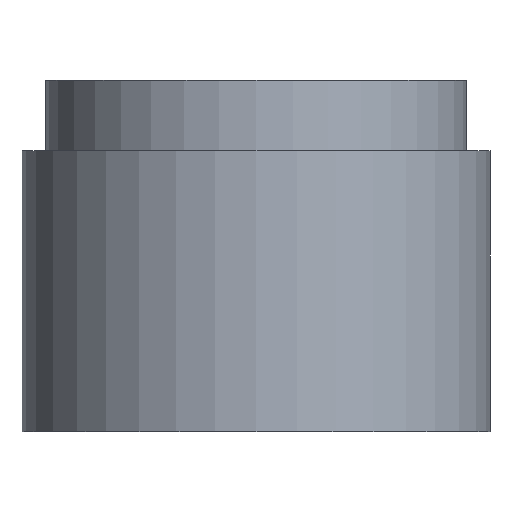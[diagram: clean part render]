
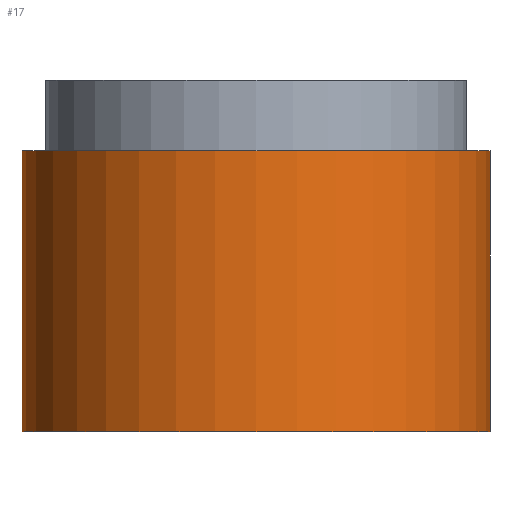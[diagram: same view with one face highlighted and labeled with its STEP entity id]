
A CAD part, front view. The second image highlights one B-rep face of the part: STEP entity #17.
In plain terms, the highlighted cylindrical face has radius 20 mm (diameter 40 mm), a full revolution.
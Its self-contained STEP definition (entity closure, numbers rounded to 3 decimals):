
#17 = ADVANCED_FACE('',(#18),#31,.T.);
#18 = FACE_BOUND('',#19,.T.);
#19 = EDGE_LOOP('',(#20,#54,#77,#104));
#20 = ORIENTED_EDGE('',*,*,#21,.F.);
#21 = EDGE_CURVE('',#22,#22,#24,.T.);
#22 = VERTEX_POINT('',#23);
#23 = CARTESIAN_POINT('',(20.,0.,24.));
#24 = SURFACE_CURVE('',#25,(#30,#42),.PCURVE_S1.);
#25 = CIRCLE('',#26,20.);
#26 = AXIS2_PLACEMENT_3D('',#27,#28,#29);
#27 = CARTESIAN_POINT('',(0.,0.,24.));
#28 = DIRECTION('',(0.,0.,1.));
#29 = DIRECTION('',(1.,0.,-0.));
#30 = PCURVE('',#31,#36);
#31 = CYLINDRICAL_SURFACE('',#32,20.);
#32 = AXIS2_PLACEMENT_3D('',#33,#34,#35);
#33 = CARTESIAN_POINT('',(0.,0.,0.));
#34 = DIRECTION('',(0.,0.,1.));
#35 = DIRECTION('',(1.,0.,-0.));
#36 = DEFINITIONAL_REPRESENTATION('',(#37),#41);
#37 = LINE('',#38,#39);
#38 = CARTESIAN_POINT('',(0.,24.));
#39 = VECTOR('',#40,1.);
#40 = DIRECTION('',(1.,0.));
#41 = ( GEOMETRIC_REPRESENTATION_CONTEXT(2) 
PARAMETRIC_REPRESENTATION_CONTEXT() REPRESENTATION_CONTEXT('2D SPACE',''
  ) );
#42 = PCURVE('',#43,#48);
#43 = PLANE('',#44);
#44 = AXIS2_PLACEMENT_3D('',#45,#46,#47);
#45 = CARTESIAN_POINT('',(0.,0.,24.));
#46 = DIRECTION('',(0.,0.,1.));
#47 = DIRECTION('',(1.,0.,-0.));
#48 = DEFINITIONAL_REPRESENTATION('',(#49),#53);
#49 = CIRCLE('',#50,20.);
#50 = AXIS2_PLACEMENT_2D('',#51,#52);
#51 = CARTESIAN_POINT('',(0.,0.));
#52 = DIRECTION('',(1.,0.));
#53 = ( GEOMETRIC_REPRESENTATION_CONTEXT(2) 
PARAMETRIC_REPRESENTATION_CONTEXT() REPRESENTATION_CONTEXT('2D SPACE',''
  ) );
#54 = ORIENTED_EDGE('',*,*,#55,.F.);
#55 = EDGE_CURVE('',#56,#22,#58,.T.);
#56 = VERTEX_POINT('',#57);
#57 = CARTESIAN_POINT('',(20.,0.,0.));
#58 = SEAM_CURVE('',#59,(#63,#70),.PCURVE_S1.);
#59 = LINE('',#60,#61);
#60 = CARTESIAN_POINT('',(20.,0.,0.));
#61 = VECTOR('',#62,1.);
#62 = DIRECTION('',(0.,0.,1.));
#63 = PCURVE('',#31,#64);
#64 = DEFINITIONAL_REPRESENTATION('',(#65),#69);
#65 = LINE('',#66,#67);
#66 = CARTESIAN_POINT('',(6.283,-0.));
#67 = VECTOR('',#68,1.);
#68 = DIRECTION('',(0.,1.));
#69 = ( GEOMETRIC_REPRESENTATION_CONTEXT(2) 
PARAMETRIC_REPRESENTATION_CONTEXT() REPRESENTATION_CONTEXT('2D SPACE',''
  ) );
#70 = PCURVE('',#31,#71);
#71 = DEFINITIONAL_REPRESENTATION('',(#72),#76);
#72 = LINE('',#73,#74);
#73 = CARTESIAN_POINT('',(0.,-0.));
#74 = VECTOR('',#75,1.);
#75 = DIRECTION('',(0.,1.));
#76 = ( GEOMETRIC_REPRESENTATION_CONTEXT(2) 
PARAMETRIC_REPRESENTATION_CONTEXT() REPRESENTATION_CONTEXT('2D SPACE',''
  ) );
#77 = ORIENTED_EDGE('',*,*,#78,.T.);
#78 = EDGE_CURVE('',#56,#56,#79,.T.);
#79 = SURFACE_CURVE('',#80,(#85,#92),.PCURVE_S1.);
#80 = CIRCLE('',#81,20.);
#81 = AXIS2_PLACEMENT_3D('',#82,#83,#84);
#82 = CARTESIAN_POINT('',(0.,0.,0.));
#83 = DIRECTION('',(0.,0.,1.));
#84 = DIRECTION('',(1.,0.,-0.));
#85 = PCURVE('',#31,#86);
#86 = DEFINITIONAL_REPRESENTATION('',(#87),#91);
#87 = LINE('',#88,#89);
#88 = CARTESIAN_POINT('',(0.,0.));
#89 = VECTOR('',#90,1.);
#90 = DIRECTION('',(1.,0.));
#91 = ( GEOMETRIC_REPRESENTATION_CONTEXT(2) 
PARAMETRIC_REPRESENTATION_CONTEXT() REPRESENTATION_CONTEXT('2D SPACE',''
  ) );
#92 = PCURVE('',#93,#98);
#93 = PLANE('',#94);
#94 = AXIS2_PLACEMENT_3D('',#95,#96,#97);
#95 = CARTESIAN_POINT('',(0.,0.,0.));
#96 = DIRECTION('',(0.,0.,1.));
#97 = DIRECTION('',(1.,0.,-0.));
#98 = DEFINITIONAL_REPRESENTATION('',(#99),#103);
#99 = CIRCLE('',#100,20.);
#100 = AXIS2_PLACEMENT_2D('',#101,#102);
#101 = CARTESIAN_POINT('',(0.,0.));
#102 = DIRECTION('',(1.,0.));
#103 = ( GEOMETRIC_REPRESENTATION_CONTEXT(2) 
PARAMETRIC_REPRESENTATION_CONTEXT() REPRESENTATION_CONTEXT('2D SPACE',''
  ) );
#104 = ORIENTED_EDGE('',*,*,#55,.T.);
